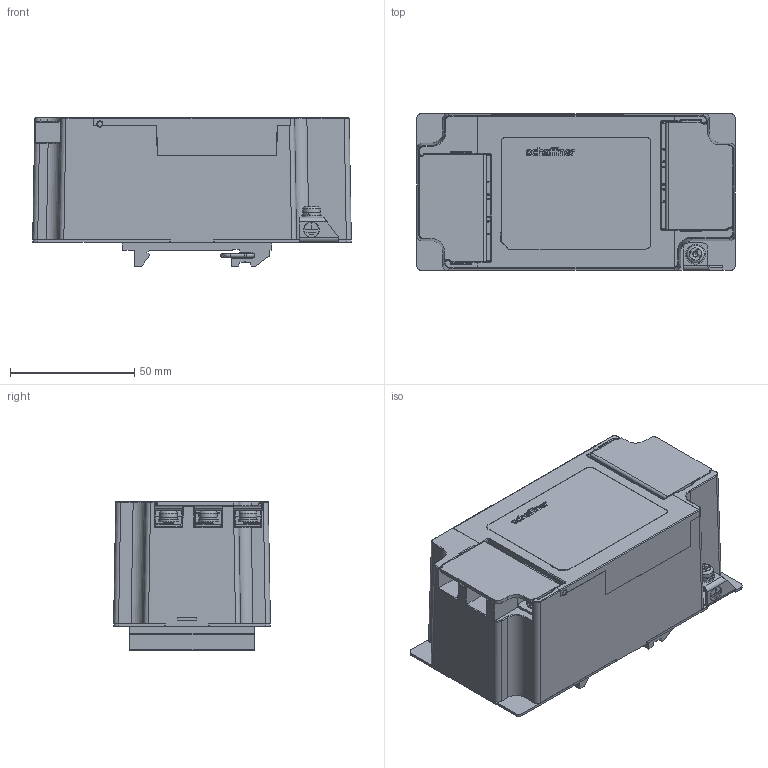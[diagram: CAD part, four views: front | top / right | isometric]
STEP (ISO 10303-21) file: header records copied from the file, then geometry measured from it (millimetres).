
FILE_DESCRIPTION(/* description */ (''),/* implementation_level */ '2;1');
FILE_NAME(/* name */ 'C:\Users\jittrapon.maneerat\Desktop\CUSTOMER STEP FILE FN30XX-DIN RAIL.stp',/* time_stamp */ '2023-09-29T08:17:04+07:00',/* author */ ('Jittrapon.Maneerat'),/* organization */ (''),/* preprocessor_version */ 'ST-DEVELOPER v18.1',/* originating_system */ 'Autodesk Inventor 2020',/* authorisation */ '');
FILE_SCHEMA (('AUTOMOTIVE_DESIGN { 1 0 10303 214 3 1 1 }'));
Products named in the file (20): 430831; 257805; 257806; 257807; 257839; 200948; 257810; 257808; 257848; 1076785_IPT_000; 1075921_IPT_000; 257829; 257829_1; 257829_2; 257829_3; 430918; 430918_1; 202005; 200678; 200098
Assembly tree (38 placements, depth 3):
  430831
    257805
    257806
    257807  x2
    257839  x7
    200948  x6
    257810  x3
    257808  x2
    257848
    1076785_IPT_000  x3
    1075921_IPT_000
    257829
      257829_1
      257829_2
      257829_3
    430918
      430918_1
      202005
    200678  x3
    200098
Bounding box: 128.03 x 63.03 x 59.81 mm (x, y, z)
Volume: 92170.6 mm3; surface area: 104452.4 mm2
Topology: 39 solids, 39 shells, 2064 faces, 5600 edges, 3630 vertices
Faces by surface type: plane 1094, cylinder 620, cone 154, bspline 88, sphere 64, torus 44
Full cylindrical faces by diameter (mm): 1.059 x3, 1.5 x6, 1.95 x6, 2 x3, 2.5 x5, 3.091 x63, 3.1 x7, 3.2 x10, 3.242 x7, 3.3 x7, 3.4 x1, 3.8 x3, 4 x6, 4.5 x6, 4.8 x6, 5.2 x1, 5.4 x1, 6.054 x1, 6.254 x1, 6.36 x1, 6.4 x3, 6.5 x1, 7 x7, 7.9 x1, 8 x7
Entity records: 55681 total; most frequent: CARTESIAN_POINT 15778, DIRECTION 8212, ORIENTED_EDGE 8156, EDGE_CURVE 4078, LINE 2776, VECTOR 2776, AXIS2_PLACEMENT_3D 2718, VERTEX_POINT 2598
